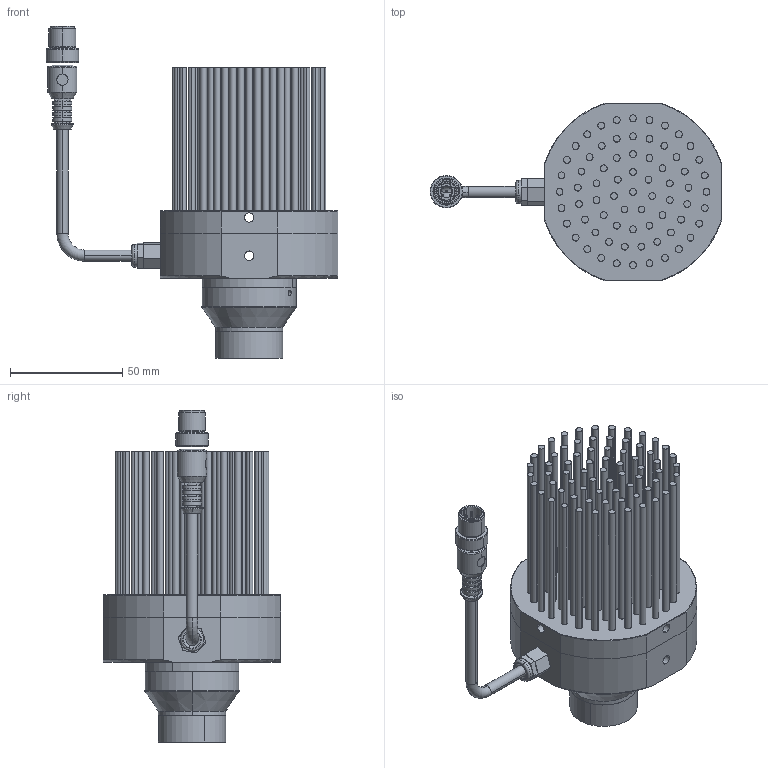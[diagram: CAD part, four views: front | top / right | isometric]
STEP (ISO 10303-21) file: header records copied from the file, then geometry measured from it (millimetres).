
FILE_DESCRIPTION (( 'STEP AP203' ), '1' );
FILE_NAME ('000964.STEP', '2016-12-05T11:18:14', ( '' ), ( '' ), 'SwSTEP 2.0', 'SolidWorks 2017', '' );
FILE_SCHEMA (( 'CONFIG_CONTROL_DESIGN' ));
Length unit declared in the file: millimetre
Products named in the file (1): 000964
Bounding box: 130.05 x 79.15 x 148.02 mm (x, y, z)
Surface area: 72783.2 mm2 (no closed solid volume)
Topology: 0 solids, 26 shells, 539 faces, 1351 edges, 907 vertices
Faces by surface type: cylinder 269, plane 181, cone 53, bspline 28, torus 8
Entity records: 17157 total; most frequent: CARTESIAN_POINT 3882, DIRECTION 2985, ORIENTED_EDGE 2449, EDGE_CURVE 1351, AXIS2_PLACEMENT_3D 1204, VERTEX_POINT 907, CIRCLE 692, EDGE_LOOP 660
